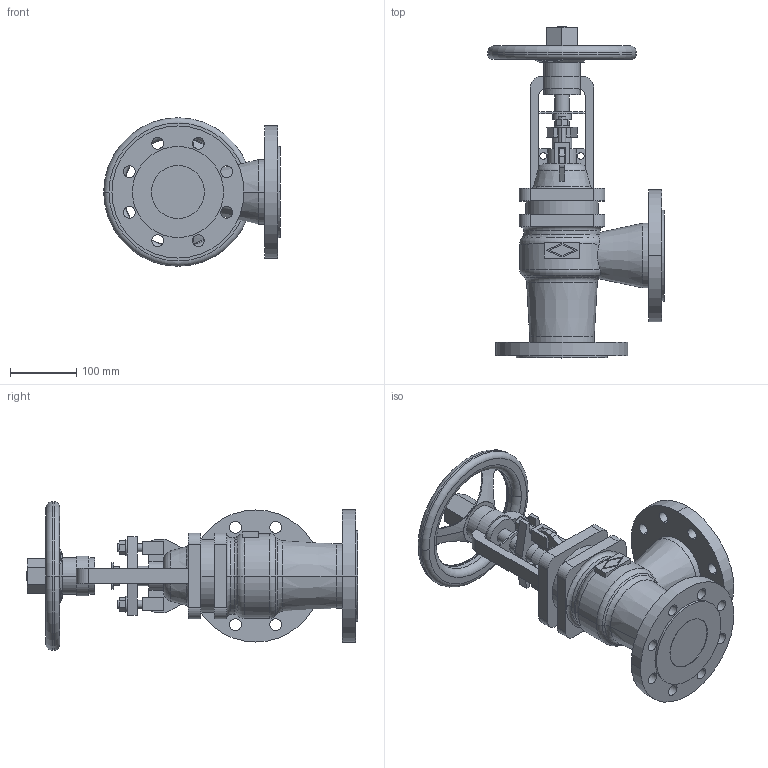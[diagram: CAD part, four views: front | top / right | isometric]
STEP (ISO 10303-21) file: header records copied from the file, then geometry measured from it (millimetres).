
FILE_DESCRIPTION(('OneSpaceDesigner STEP Export'),'2;1');
FILE_NAME('c000004441.stp','2010-05-17T 9:38:16',(''),(''),'OneSpace Designer STEP processor for AP214 (Solid Model)','OneSpace Modeling 15.50B 03-Nov-2007 (C) CoCreate Software GmbH','');
FILE_SCHEMA(('AUTOMOTIVE_DESIGN { 1 0 10303 214 1 1 1 1 }'));
Length unit declared in the file: millimetre
Products named in the file (1): 1
Bounding box: 267.5 x 502.8 x 225 mm (x, y, z)
Volume: 5315174 mm3; surface area: 449242.3 mm2
Topology: 1 solids, 1 shells, 332 faces, 893 edges, 586 vertices
Faces by surface type: plane 148, cylinder 140, torus 30, cone 14
Entity records: 13285 total; most frequent: CARTESIAN_POINT 2720, ORIENTED_EDGE 1786, DIRECTION 1443, EDGE_CURVE 893, VERTEX_POINT 586, AXIS2_PLACEMENT_3D 500, VECTOR 443, LINE 443
